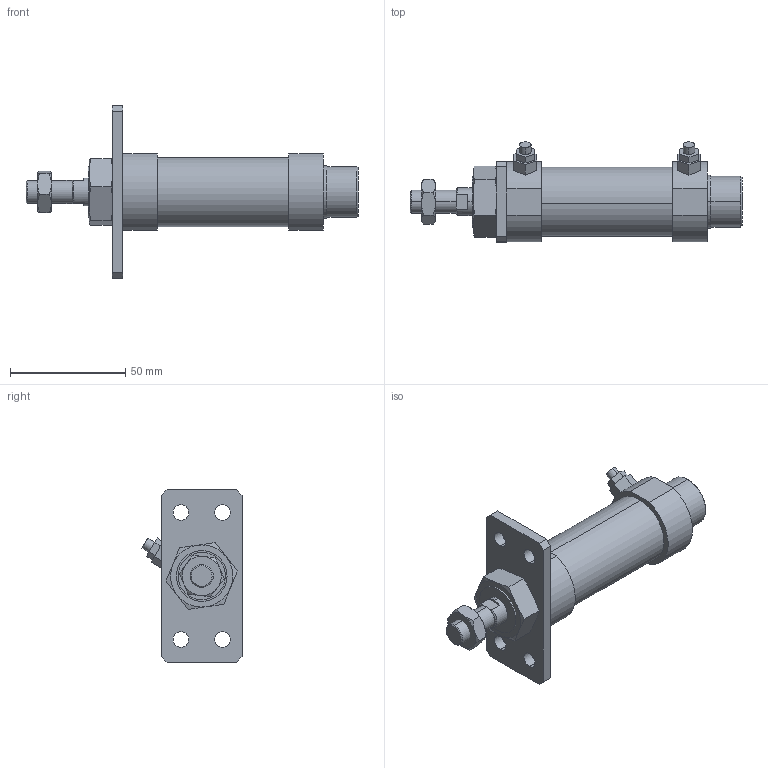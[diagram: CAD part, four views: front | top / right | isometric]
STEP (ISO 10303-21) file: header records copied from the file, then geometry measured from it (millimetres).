
FILE_DESCRIPTION (( 'STEP AP203' ), '1' );
FILE_NAME ('JG2-25-25-A.STEP', '2016-04-19T00:47:23', ( '' ), ( '' ), 'SwSTEP 2.0', 'SolidWorks 2014', '' );
FILE_SCHEMA (( 'CONFIG_CONTROL_DESIGN' ));
Length unit declared in the file: millimetre
Products named in the file (7): M10x1.5-6mm; JG2-25-25-A; J#2-25-A; M22x1.5-10mm; JG2-25B; 25-25; JG2-25A
Assembly tree (6 placements, depth 2):
  JG2-25-25-A
    JG2-25B
    25-25
    JG2-25A
    M10x1.5-6mm
    M22x1.5-10mm
    J#2-25-A
Bounding box: 144 x 43.43 x 75 mm (x, y, z)
Volume: 95470.1 mm3; surface area: 26879.7 mm2
Topology: 6 solids, 6 shells, 157 faces, 360 edges, 226 vertices
Faces by surface type: plane 79, cylinder 40, torus 24, cone 14
Entity records: 5485 total; most frequent: CARTESIAN_POINT 1220, DIRECTION 746, ORIENTED_EDGE 712, EDGE_CURVE 356, AXIS2_PLACEMENT_3D 288, VERTEX_POINT 226, EDGE_LOOP 186, LINE 170
